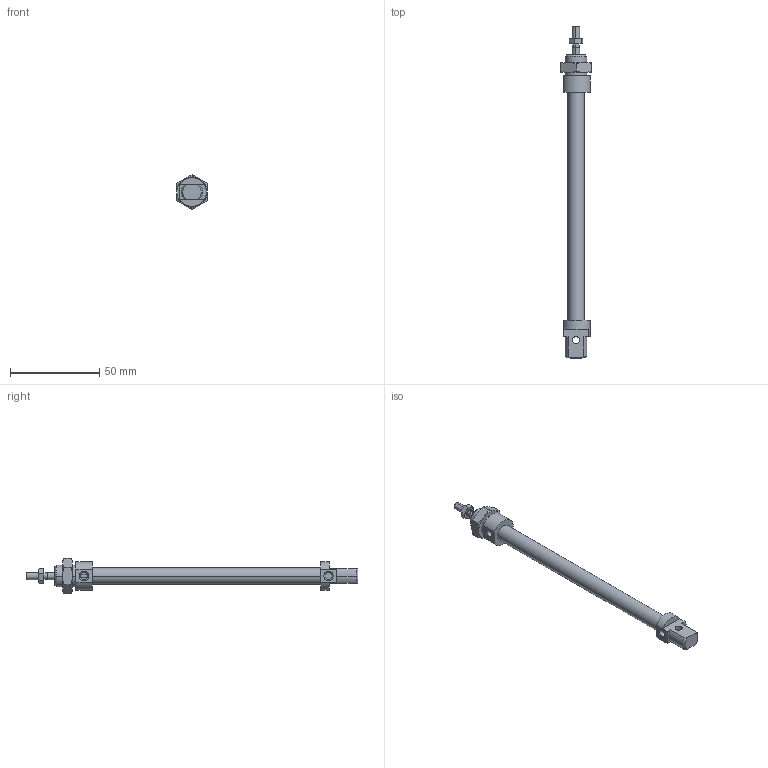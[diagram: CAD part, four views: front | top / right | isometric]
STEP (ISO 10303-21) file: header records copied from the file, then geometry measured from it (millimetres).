
FILE_DESCRIPTION((''),'2;1');
FILE_NAME('I:\DOC-EDP\Lib-3d\1200\CILINDRI\1280\1280_08_0100.stp','2003-04-07T14:44:36',('maffial1'),(''),'Autodesk Inventor (R) 6.0','Autodesk Inventor (R) 6.0','');
FILE_SCHEMA(('AUTOMOTIVE_DESIGN { 1 0 10303 214 1 1 1 1 }'));
Length unit declared in the file: millimetre
Products named in the file (5): 1280_08_0100; S1280_08_100; 1200_08_05; 1200_08_06; C1280_08_100
Assembly tree (4 placements, depth 2):
  1280_08_0100
    S1280_08_100
    1200_08_05
    1200_08_06
    C1280_08_100
Bounding box: 17 x 186 x 19.63 mm (x, y, z)
Volume: 15007.9 mm3; surface area: 10470.2 mm2
Topology: 4 solids, 4 shells, 117 faces, 261 edges, 158 vertices
Faces by surface type: cone 40, plane 34, cylinder 22, bspline 21
Entity records: 3582 total; most frequent: CARTESIAN_POINT 992, DIRECTION 531, ORIENTED_EDGE 522, EDGE_CURVE 261, AXIS2_PLACEMENT_3D 221, VERTEX_POINT 158, EDGE_LOOP 131, FACE_OUTER_BOUND 117
